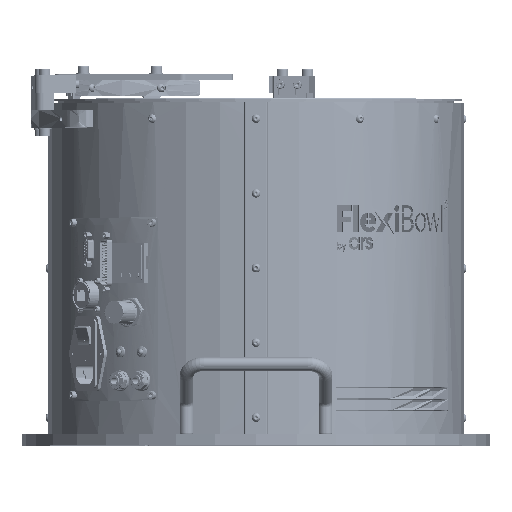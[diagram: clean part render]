
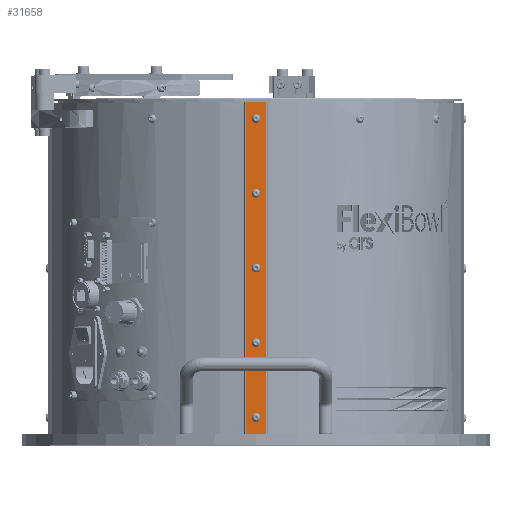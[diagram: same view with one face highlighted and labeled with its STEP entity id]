
A CAD part, top view. The second image highlights one B-rep face of the part: STEP entity #31658.
In plain terms, the highlighted planar face has unit normal (0, 0, 1) as drawn and (0.024, -1, 0) by its records, which use the part's own axes.
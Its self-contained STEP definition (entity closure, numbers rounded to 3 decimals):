
#5616 = DIRECTION ( 'NONE',  ( -0.024, 1., 0. ) ) ;
#9065 = CARTESIAN_POINT ( 'NONE',  ( 0.012, -421.119, 78.5 ) ) ;
#10658 = LINE ( 'NONE', #61614, #127597 ) ;
#13561 = EDGE_LOOP ( 'NONE', ( #221661, #180241 ) ) ;
#16282 = CARTESIAN_POINT ( 'NONE',  ( 0.012, -421.119, 272. ) ) ;
#18058 = VERTEX_POINT ( 'NONE', #66391 ) ;
#19361 = EDGE_CURVE ( 'NONE', #90164, #134469, #162599, .T. ) ;
#28357 = VECTOR ( 'NONE', #151762, 1000. ) ;
#28707 = CARTESIAN_POINT ( 'NONE',  ( -8.982, -421.333, 0. ) ) ;
#31658 = ADVANCED_FACE ( 'NONE', ( #184154, #269233, #161536, #76715, #34223, #158775 ), #120683, .F. ) ;
#31875 = DIRECTION ( 'NONE',  ( -0.024, 1., 0. ) ) ;
#32727 = DIRECTION ( 'NONE',  ( -0.024, 1., 0. ) ) ;
#33931 = DIRECTION ( 'NONE',  ( -1., -0.024, 0. ) ) ;
#34223 = FACE_BOUND ( 'NONE', #239512, .T. ) ;
#38697 = DIRECTION ( 'NONE',  ( -1., -0.024, 0. ) ) ;
#40142 = EDGE_LOOP ( 'NONE', ( #171806, #234536, #160700, #118012 ) ) ;
#42002 = CARTESIAN_POINT ( 'NONE',  ( -2.488, -421.178, 143. ) ) ;
#42119 = VERTEX_POINT ( 'NONE', #173088 ) ;
#43623 = EDGE_CURVE ( 'NONE', #52516, #49952, #249168, .T. ) ;
#45676 = EDGE_CURVE ( 'NONE', #178221, #98083, #10658, .T. ) ;
#48301 = AXIS2_PLACEMENT_3D ( 'NONE', #182636, #32727, #161436 ) ;
#49952 = VERTEX_POINT ( 'NONE', #120679 ) ;
#51806 = CARTESIAN_POINT ( 'NONE',  ( 0.012, -421.119, 78.5 ) ) ;
#52516 = VERTEX_POINT ( 'NONE', #166881 ) ;
#53466 = EDGE_CURVE ( 'NONE', #76961, #42119, #59275, .T. ) ;
#55399 = VERTEX_POINT ( 'NONE', #42002 ) ;
#56928 = DIRECTION ( 'NONE',  ( -0.024, 1., 0. ) ) ;
#59275 = CIRCLE ( 'NONE', #140395, 2.5 ) ;
#60223 = VERTEX_POINT ( 'NONE', #107380 ) ;
#61614 = CARTESIAN_POINT ( 'NONE',  ( 0.014, -421.119, 286. ) ) ;
#61656 = EDGE_CURVE ( 'NONE', #49952, #52516, #63328, .T. ) ;
#63328 = CIRCLE ( 'NONE', #257636, 2.5 ) ;
#65850 = DIRECTION ( 'NONE',  ( 0., 0., -1. ) ) ;
#66391 = CARTESIAN_POINT ( 'NONE',  ( 2.511, -421.059, 207.5 ) ) ;
#69166 = AXIS2_PLACEMENT_3D ( 'NONE', #277854, #253776, #150281 ) ;
#69584 = DIRECTION ( 'NONE',  ( -0.024, 1., 0. ) ) ;
#71664 = CARTESIAN_POINT ( 'NONE',  ( -2.488, -421.178, 207.5 ) ) ;
#73912 = ORIENTED_EDGE ( 'NONE', *, *, #43623, .T. ) ;
#76715 = FACE_BOUND ( 'NONE', #237550, .T. ) ;
#76747 = EDGE_CURVE ( 'NONE', #189649, #60223, #104747, .T. ) ;
#76961 = VERTEX_POINT ( 'NONE', #113874 ) ;
#77226 = EDGE_CURVE ( 'NONE', #60223, #189649, #150236, .T. ) ;
#83130 = CARTESIAN_POINT ( 'NONE',  ( 0.012, -421.119, 14. ) ) ;
#84797 = VERTEX_POINT ( 'NONE', #71664 ) ;
#90164 = VERTEX_POINT ( 'NONE', #130542 ) ;
#93673 = AXIS2_PLACEMENT_3D ( 'NONE', #237718, #5616, #134448 ) ;
#94072 = VECTOR ( 'NONE', #33931, 1000. ) ;
#95314 = EDGE_CURVE ( 'NONE', #206476, #55399, #111597, .T. ) ;
#96858 = CARTESIAN_POINT ( 'NONE',  ( 0.012, -421.119, 207.5 ) ) ;
#96862 = DIRECTION ( 'NONE',  ( -0.024, 1., 0. ) ) ;
#98083 = VERTEX_POINT ( 'NONE', #257938 ) ;
#102514 = DIRECTION ( 'NONE',  ( -1., -0.024, 0. ) ) ;
#104747 = CIRCLE ( 'NONE', #244649, 2.5 ) ;
#105140 = CARTESIAN_POINT ( 'NONE',  ( 0.012, -421.119, 272. ) ) ;
#107380 = CARTESIAN_POINT ( 'NONE',  ( -2.488, -421.178, 272. ) ) ;
#111597 = CIRCLE ( 'NONE', #48301, 2.5 ) ;
#113874 = CARTESIAN_POINT ( 'NONE',  ( 2.511, -421.059, 14. ) ) ;
#118012 = ORIENTED_EDGE ( 'NONE', *, *, #140063, .T. ) ;
#119597 = CIRCLE ( 'NONE', #205327, 2.5 ) ;
#120679 = CARTESIAN_POINT ( 'NONE',  ( -2.488, -421.178, 78.5 ) ) ;
#120683 = PLANE ( 'NONE',  #197277 ) ;
#122373 = CARTESIAN_POINT ( 'NONE',  ( 0.012, -421.119, 14. ) ) ;
#122715 = EDGE_CURVE ( 'NONE', #55399, #206476, #154911, .T. ) ;
#127050 = DIRECTION ( 'NONE',  ( -1., -0.024, 0. ) ) ;
#127597 = VECTOR ( 'NONE', #212949, 1000. ) ;
#130542 = CARTESIAN_POINT ( 'NONE',  ( 9.009, -420.905, 0. ) ) ;
#134448 = DIRECTION ( 'NONE',  ( -1., -0.024, 0. ) ) ;
#134469 = VERTEX_POINT ( 'NONE', #28707 ) ;
#136721 = DIRECTION ( 'NONE',  ( -0.024, 1., 0. ) ) ;
#140063 = EDGE_CURVE ( 'NONE', #90164, #98083, #239541, .T. ) ;
#140395 = AXIS2_PLACEMENT_3D ( 'NONE', #83130, #169338, #127050 ) ;
#141785 = AXIS2_PLACEMENT_3D ( 'NONE', #96858, #165957, #38697 ) ;
#143641 = DIRECTION ( 'NONE',  ( -1., -0.024, 0. ) ) ;
#143832 = ORIENTED_EDGE ( 'NONE', *, *, #95314, .T. ) ;
#149028 = CARTESIAN_POINT ( 'NONE',  ( 9.009, -420.905, 286. ) ) ;
#150236 = CIRCLE ( 'NONE', #186316, 2.5 ) ;
#150281 = DIRECTION ( 'NONE',  ( -1., -0.024, 0. ) ) ;
#151762 = DIRECTION ( 'NONE',  ( 0., 0., 1. ) ) ;
#154911 = CIRCLE ( 'NONE', #69166, 2.5 ) ;
#158775 = FACE_OUTER_BOUND ( 'NONE', #40142, .T. ) ;
#159694 = CIRCLE ( 'NONE', #141785, 2.5 ) ;
#160700 = ORIENTED_EDGE ( 'NONE', *, *, #19361, .F. ) ;
#161436 = DIRECTION ( 'NONE',  ( -1., -0.024, 0. ) ) ;
#161536 = FACE_BOUND ( 'NONE', #13561, .T. ) ;
#162599 = LINE ( 'NONE', #249089, #94072 ) ;
#163145 = AXIS2_PLACEMENT_3D ( 'NONE', #9065, #96862, #180230 ) ;
#165813 = CIRCLE ( 'NONE', #93673, 2.5 ) ;
#165957 = DIRECTION ( 'NONE',  ( -0.024, 1., 0. ) ) ;
#166881 = CARTESIAN_POINT ( 'NONE',  ( 2.511, -421.059, 78.5 ) ) ;
#168409 = ORIENTED_EDGE ( 'NONE', *, *, #77226, .T. ) ;
#168552 = CARTESIAN_POINT ( 'NONE',  ( -8.982, -421.333, 286. ) ) ;
#169338 = DIRECTION ( 'NONE',  ( -0.024, 1., 0. ) ) ;
#171508 = CARTESIAN_POINT ( 'NONE',  ( 2.511, -421.059, 272. ) ) ;
#171806 = ORIENTED_EDGE ( 'NONE', *, *, #45676, .F. ) ;
#173088 = CARTESIAN_POINT ( 'NONE',  ( -2.488, -421.178, 14. ) ) ;
#173194 = CARTESIAN_POINT ( 'NONE',  ( -8.982, -421.333, 0. ) ) ;
#176958 = EDGE_CURVE ( 'NONE', #42119, #76961, #119597, .T. ) ;
#178221 = VERTEX_POINT ( 'NONE', #168552 ) ;
#179990 = DIRECTION ( 'NONE',  ( -1., -0.024, 0. ) ) ;
#180230 = DIRECTION ( 'NONE',  ( -1., -0.024, 0. ) ) ;
#180241 = ORIENTED_EDGE ( 'NONE', *, *, #190179, .T. ) ;
#182636 = CARTESIAN_POINT ( 'NONE',  ( 0.012, -421.119, 143. ) ) ;
#184154 = FACE_BOUND ( 'NONE', #198357, .T. ) ;
#186316 = AXIS2_PLACEMENT_3D ( 'NONE', #105140, #69584, #220928 ) ;
#189649 = VERTEX_POINT ( 'NONE', #171508 ) ;
#190179 = EDGE_CURVE ( 'NONE', #84797, #18058, #165813, .T. ) ;
#193319 = ORIENTED_EDGE ( 'NONE', *, *, #176958, .T. ) ;
#197277 = AXIS2_PLACEMENT_3D ( 'NONE', #270629, #56928, #179990 ) ;
#198357 = EDGE_LOOP ( 'NONE', ( #229999, #193319 ) ) ;
#199373 = EDGE_LOOP ( 'NONE', ( #143832, #232094 ) ) ;
#204589 = DIRECTION ( 'NONE',  ( -1., -0.024, 0. ) ) ;
#205327 = AXIS2_PLACEMENT_3D ( 'NONE', #122373, #208569, #102514 ) ;
#206476 = VERTEX_POINT ( 'NONE', #254599 ) ;
#208149 = ORIENTED_EDGE ( 'NONE', *, *, #76747, .T. ) ;
#208569 = DIRECTION ( 'NONE',  ( -0.024, 1., 0. ) ) ;
#210060 = ORIENTED_EDGE ( 'NONE', *, *, #61656, .T. ) ;
#212949 = DIRECTION ( 'NONE',  ( 1., 0.024, 0. ) ) ;
#213248 = EDGE_CURVE ( 'NONE', #178221, #134469, #259702, .T. ) ;
#220928 = DIRECTION ( 'NONE',  ( -1., -0.024, 0. ) ) ;
#221661 = ORIENTED_EDGE ( 'NONE', *, *, #278687, .T. ) ;
#229999 = ORIENTED_EDGE ( 'NONE', *, *, #53466, .T. ) ;
#232094 = ORIENTED_EDGE ( 'NONE', *, *, #122715, .T. ) ;
#234536 = ORIENTED_EDGE ( 'NONE', *, *, #213248, .T. ) ;
#237550 = EDGE_LOOP ( 'NONE', ( #73912, #210060 ) ) ;
#237718 = CARTESIAN_POINT ( 'NONE',  ( 0.012, -421.119, 207.5 ) ) ;
#239512 = EDGE_LOOP ( 'NONE', ( #208149, #168409 ) ) ;
#239541 = LINE ( 'NONE', #149028, #28357 ) ;
#244649 = AXIS2_PLACEMENT_3D ( 'NONE', #16282, #31875, #143641 ) ;
#249089 = CARTESIAN_POINT ( 'NONE',  ( 0.014, -421.119, 0. ) ) ;
#249168 = CIRCLE ( 'NONE', #163145, 2.5 ) ;
#251565 = VECTOR ( 'NONE', #65850, 1000. ) ;
#253776 = DIRECTION ( 'NONE',  ( -0.024, 1., 0. ) ) ;
#254599 = CARTESIAN_POINT ( 'NONE',  ( 2.511, -421.059, 143. ) ) ;
#257636 = AXIS2_PLACEMENT_3D ( 'NONE', #51806, #136721, #204589 ) ;
#257938 = CARTESIAN_POINT ( 'NONE',  ( 9.009, -420.905, 286. ) ) ;
#259702 = LINE ( 'NONE', #173194, #251565 ) ;
#269233 = FACE_BOUND ( 'NONE', #199373, .T. ) ;
#270629 = CARTESIAN_POINT ( 'NONE',  ( 0.014, -421.119, 143. ) ) ;
#277854 = CARTESIAN_POINT ( 'NONE',  ( 0.012, -421.119, 143. ) ) ;
#278687 = EDGE_CURVE ( 'NONE', #18058, #84797, #159694, .T. ) ;
